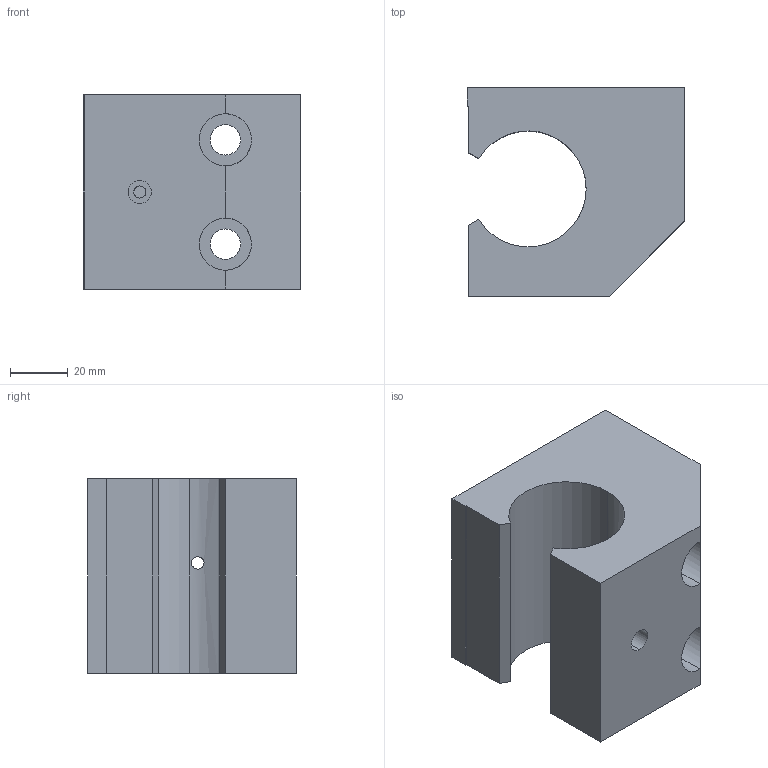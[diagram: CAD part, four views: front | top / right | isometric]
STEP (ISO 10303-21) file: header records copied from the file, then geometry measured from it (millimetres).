
FILE_DESCRIPTION (( 'STEP AP214' ), '1' );
FILE_NAME ('KGS71-25.step', '2020-03-04T13:23:41', ( '' ), ( '' ), 'SwSTEP 2.0', 'SolidWorks 2019', '' );
FILE_SCHEMA (( 'AUTOMOTIVE_DESIGN' ));
Length unit declared in the file: millimetre
Products named in the file (1): KGS71-25
Bounding box: 75 x 72 x 67 mm (x, y, z)
Volume: 229907.2 mm3; surface area: 37824.2 mm2
Topology: 1 solids, 1 shells, 35 faces, 90 edges, 58 vertices
Faces by surface type: cylinder 18, plane 15, cone 2
Entity records: 1314 total; most frequent: CARTESIAN_POINT 306, DIRECTION 188, ORIENTED_EDGE 180, EDGE_CURVE 90, AXIS2_PLACEMENT_3D 68, VERTEX_POINT 58, LINE 52, VECTOR 52
